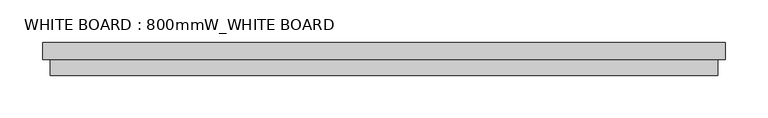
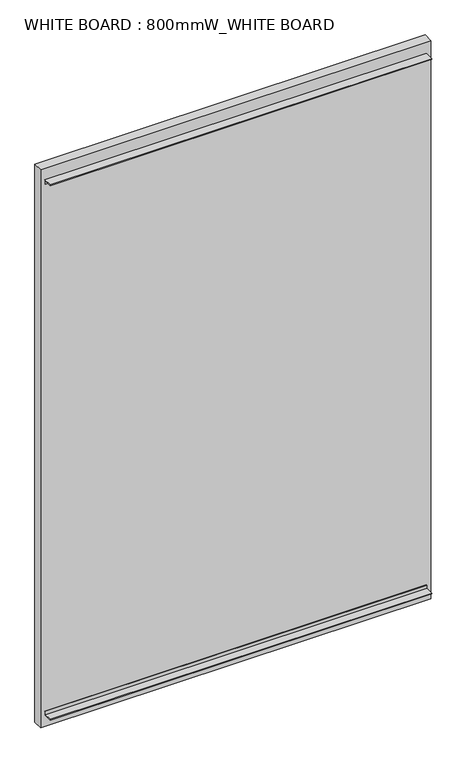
"""IFC4 building model written with IfcOpenShell, lengths in millimetres: furniture geometry, WHITE BOARD : 800mmW_WHITE BOARD."""

from ifc_helpers import new_model, si_unit, frame, origin, place, context, project, spatial, polyline, outline, extrude, source, transform, mapped, element, save


def white_board_800mmw_white_board_86a55086(model_context):
    return source(origin(), model_context, "Body", "SweptSolid", [
        extrude(outline(polyline([(200.0, 18.0), (181.4542318, 18.0), (181.4542318, 19.4408978), (198.4450835, 19.4408978), (198.4450835, 26.4125649), (200.0, 26.4125649), (200.0, 18.0)])), frame((-391.003738, 0.0, 0.0), z_axis=(1.0, 0.0, 0.0), x_axis=(0.0, 1.0, 0.0)), (0.0, 0.0, 1.0), 782.003738),
        extrude(outline(polyline([(200.0, 1178.0), (200.0, 1169.5874351), (198.4450835, 1169.5874351), (198.4450835, 1176.5591022), (181.4542318, 1176.5591022), (181.4542318, 1178.0), (200.0, 1178.0)])), frame((-391.003738, 0.0, 0.0), z_axis=(1.0, 0.0, 0.0), x_axis=(0.0, 1.0, 0.0)), (0.0, 0.0, 1.0), 782.003738),
        extrude(outline(polyline([(400.0, 220.0), (400.0, 200.0), (-400.0, 200.0), (-400.0, 220.0), (400.0, 220.0)])), frame((0.0, 0.0, -7.0), z_axis=(0.0, 0.0, 1.0), x_axis=(1.0, 0.0, 0.0)), (0.0, 0.0, 1.0), 1210.0),
    ])


if __name__ == "__main__":
    model = new_model("IFC4")
    model_context = context("Model", 3, world=origin())
    ifc_project = project(units=[si_unit("LENGTHUNIT", "METRE", prefix="MILLI")], contexts=[model_context])
    site = spatial("IfcSite", under=ifc_project)
    building = spatial("IfcBuilding", under=site)
    placement = place(None, origin())
    white_board_800mmw_white_board_shape = white_board_800mmw_white_board_86a55086(model_context)
    element("IfcFurniture", 1, ObjectType="WHITE BOARD : 800mmW_WHITE BOARD", at=placement, inside=building, context=model_context, shape_type="MappedRepresentation", body=[
        mapped(white_board_800mmw_white_board_shape, transform((0.0, 0.0, 0.0), x_axis=(1.0, 0.0, 0.0), y_axis=(0.0, 1.0, 0.0), z_axis=(0.0, 0.0, 1.0))),
    ])
    save(model, "model.ifc")
